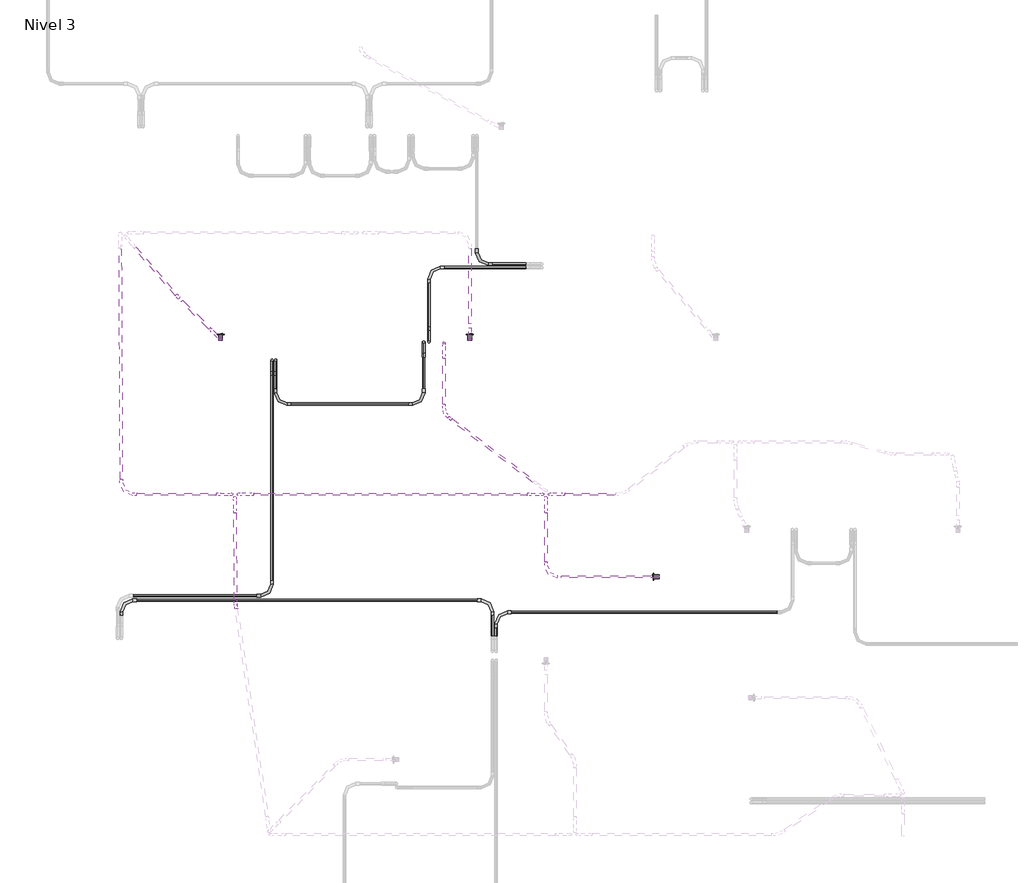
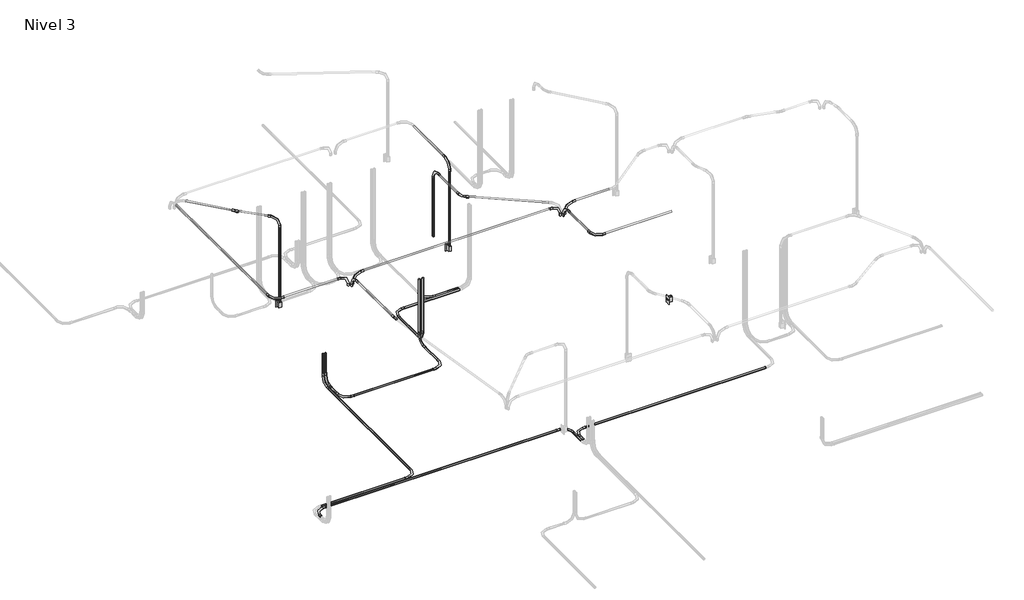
# One storey, part 3 of 9: 31 cable carrier segments, 26 cable carrier fittings, 3 switching devices.
"""IFC4 building model written with IfcOpenShell, lengths in millimetres."""

from ifc_helpers import new_model, si_unit, point, frame, frame_2d, origin, place, context, project, spatial, circle_curve, trimmed, segment, composite_curve, outline, extrude, transform, mapped, element, save
from components import m_codo_de_tubo_extremo_liso_pvc_9da73e12, m_codo_de_tubo_extremo_liso_pvc_102f0f41, m_codo_de_tubo_extremo_liso_pvc_01dea03c, m_codo_de_tubo_extremo_liso_pvc_a375e3ab, m_codo_de_tubo_extremo_liso_pvc_c9202d06, m_codo_de_tubo_extremo_liso_pvc_6ad27ddb, switching_device_22fed34b

model = new_model("IFC4")

# Units and contexts
model_context = context("Model", 3, world=origin())
ifc_project = project(units=[si_unit("LENGTHUNIT", "METRE", prefix="MILLI")], contexts=[model_context])

# Site, building, storey
site = spatial("IfcSite", under=ifc_project)
building = spatial("IfcBuilding", under=site)
storey = spatial("IfcBuildingStorey", under=building, Name="Nivel 3", Elevation=5450.0)

# Cable carrier fittings
placement = place(None, origin())
m_codo_de_tubo_extremo_liso_pvc_shape = m_codo_de_tubo_extremo_liso_pvc_9da73e12(model_context)
element("IfcCableCarrierFitting", 1, ObjectType="M_Codo de tubo - Extremo liso - PVC : CODO POTENCIA", at=placement, inside=storey, context=model_context, shape_type="MappedRepresentation", body=[
    mapped(m_codo_de_tubo_extremo_liso_pvc_shape, transform((3566.4756648, 7723.1932788, 5380.0), x_axis=(0.0, -1.0, 0.0), y_axis=(1.0, 0.0, 0.0), z_axis=(0.0, 0.0, 1.0))),
])
element("IfcCableCarrierFitting", 2, ObjectType="M_Codo de tubo - Extremo liso - PVC : CODO POTENCIA", at=placement, inside=storey, context=model_context, shape_type="MappedRepresentation", body=[
    mapped(m_codo_de_tubo_extremo_liso_pvc_shape, transform((3088.8006321, 7687.1296392, 5380.0), x_axis=(-1.0, 0.0, 0.0), y_axis=(0.0, -1.0, 0.0), z_axis=(0.0, 0.0, 1.0))),
])
element("IfcCableCarrierFitting", 3, ObjectType="M_Codo de tubo - Extremo liso - PVC : CODO POTENCIA", at=placement, inside=storey, context=model_context, shape_type="MappedRepresentation", body=[
    mapped(m_codo_de_tubo_extremo_liso_pvc_shape, transform((1557.2988878, 6764.6371118, 5380.0), x_axis=(0.0, 0.0, -1.0), y_axis=(0.0, -1.0, 0.0), z_axis=(-1.0, 0.0, 0.0))),
])
element("IfcCableCarrierFitting", 4, ObjectType="M_Codo de tubo - Extremo liso - PVC : CODO POTENCIA", at=placement, inside=storey, context=model_context, shape_type="MappedRepresentation", body=[
    mapped(m_codo_de_tubo_extremo_liso_pvc_shape, transform((1521.2352482, 6764.6371118, 5380.0), x_axis=(0.0, 0.0, -1.0), y_axis=(0.0, -1.0, 0.0), z_axis=(-1.0, 0.0, 0.0))),
])
element("IfcCableCarrierFitting", 5, ObjectType="M_Codo de tubo - Extremo liso - PVC : CODO POTENCIA", at=placement, inside=storey, context=model_context, shape_type="MappedRepresentation", body=[
    mapped(m_codo_de_tubo_extremo_liso_pvc_shape, transform((1521.2352482, 4410.0, 5380.0), x_axis=(1.0, 0.0, 0.0), y_axis=(0.0, 1.0, 0.0), z_axis=(0.0, 0.0, 1.0))),
])
element("IfcCableCarrierFitting", 6, ObjectType="M_Codo de tubo - Extremo liso - PVC : CODO POTENCIA", at=placement, inside=storey, context=model_context, shape_type="MappedRepresentation", body=[
    mapped(m_codo_de_tubo_extremo_liso_pvc_shape, transform((1557.2988878, 6324.6371118, 5380.0), x_axis=(0.0, -1.0, 0.0), y_axis=(1.0, 0.0, 0.0), z_axis=(0.0, 0.0, 1.0))),
])
element("IfcCableCarrierFitting", 7, ObjectType="M_Codo de tubo - Extremo liso - PVC : CODO POTENCIA", at=placement, inside=storey, context=model_context, shape_type="MappedRepresentation", body=[
    mapped(m_codo_de_tubo_extremo_liso_pvc_shape, transform((3037.2988878, 6324.6371118, 5380.0), x_axis=(1.0, 0.0, 0.0), y_axis=(0.0, 1.0, 0.0), z_axis=(0.0, 0.0, 1.0))),
])
element("IfcCableCarrierFitting", 8, ObjectType="M_Codo de tubo - Extremo liso - PVC : CODO POTENCIA", at=placement, inside=storey, context=model_context, shape_type="MappedRepresentation", body=[
    mapped(m_codo_de_tubo_extremo_liso_pvc_shape, transform((3723.3033726, 4365.3628882, 5380.0), x_axis=(0.0, 1.0, 0.0), y_axis=(-1.0, 0.0, 0.0), z_axis=(0.0, 0.0, 1.0))),
])
element("IfcCableCarrierFitting", 9, ObjectType="M_Codo de tubo - Extremo liso - PVC : CODO POTENCIA", at=placement, inside=storey, context=model_context, shape_type="MappedRepresentation", body=[
    mapped(m_codo_de_tubo_extremo_liso_pvc_shape, transform((17.0761068, 4365.3628882, 5380.0), x_axis=(-1.0, 0.0, 0.0), y_axis=(0.0, -1.0, 0.0), z_axis=(0.0, 0.0, 1.0))),
])
element("IfcCableCarrierFitting", 10, ObjectType="M_Codo de tubo - Extremo liso - PVC : CODO POTENCIA", at=placement, inside=storey, context=model_context, shape_type="MappedRepresentation", body=[
    mapped(m_codo_de_tubo_extremo_liso_pvc_shape, transform((3759.3670122, 4245.3628882, 5380.0), x_axis=(-1.0, 0.0, 0.0), y_axis=(0.0, -1.0, 0.0), z_axis=(0.0, 0.0, 1.0))),
])
element("IfcCableCarrierFitting", 11, ObjectType="M_Codo de tubo - Extremo liso - PVC : CODO POTENCIA", at=placement, inside=storey, context=model_context, shape_type="MappedRepresentation", body=[
    mapped(m_codo_de_tubo_extremo_liso_pvc_shape, transform((3088.8006321, 6944.6371118, 5380.0), x_axis=(0.0, -1.0, 0.0), y_axis=(0.0, 0.0, 1.0), z_axis=(-1.0, 0.0, 0.0))),
])
element("IfcCableCarrierFitting", 12, ObjectType="M_Codo de tubo - Extremo liso - PVC : CODO POTENCIA", at=placement, inside=storey, context=model_context, shape_type="MappedRepresentation", body=[
    mapped(m_codo_de_tubo_extremo_liso_pvc_shape, transform((3037.2988878, 6944.6371118, 5380.0), x_axis=(0.0, 1.0, 0.0), y_axis=(0.0, 0.0, 1.0), z_axis=(1.0, 0.0, 0.0))),
])
element("IfcCableCarrierFitting", 13, ObjectType="M_Codo de tubo - Extremo liso - PVC : CODO ILUMINACION", at=placement, inside=storey, context=model_context, shape_type="MappedRepresentation", body=[
    mapped(m_codo_de_tubo_extremo_liso_pvc_shape, transform((1185.6193562, 5423.1835713, 8000.0), x_axis=(-1.0, 0.0, 0.0), y_axis=(0.0, 0.0, -1.0), z_axis=(0.0, -1.0, 0.0))),
])
element("IfcCableCarrierFitting", 14, ObjectType="M_Codo de tubo - Extremo liso - PVC : CODO ILUMINACION", at=placement, inside=storey, context=model_context, shape_type="MappedRepresentation", body=[
    mapped(m_codo_de_tubo_extremo_liso_pvc_shape, transform((4293.3404165, 5423.1835713, 8000.0), x_axis=(-1.0, 0.0, 0.0), y_axis=(0.0, 0.0, -1.0), z_axis=(0.0, -1.0, 0.0))),
])
element("IfcCableCarrierFitting", 15, ObjectType="M_Codo de tubo - Extremo liso - PVC : CODO ILUMINACION", at=placement, inside=storey, context=model_context, shape_type="MappedRepresentation", body=[
    mapped(m_codo_de_tubo_extremo_liso_pvc_shape, transform((3497.5007971, 6971.8611243, 8000.0), x_axis=(0.0, 0.0, 1.0), y_axis=(0.0, 1.0, 0.0), z_axis=(-1.0, 0.0, 0.0))),
])
element("IfcCableCarrierFitting", 16, ObjectType="M_Codo de tubo - Extremo liso - PVC : CODO ILUMINACION", at=placement, inside=storey, context=model_context, shape_type="MappedRepresentation", body=[
    mapped(m_codo_de_tubo_extremo_liso_pvc_shape, transform((1007.1275387, 6971.8611243, 8000.0), x_axis=(0.0, 0.0, 1.0), y_axis=(-0.7107309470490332, 0.7034639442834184, 0.0), z_axis=(-0.7034639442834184, -0.7107309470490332, 0.0))),
])
element("IfcCableCarrierFitting", 17, ObjectType="M_Codo de tubo - Extremo liso - PVC : CODO ILUMINACION", at=placement, inside=storey, context=model_context, shape_type="MappedRepresentation", body=[
    mapped(m_codo_de_tubo_extremo_liso_pvc_shape, transform((4257.1192172, 5391.3745096, 8000.0), x_axis=(0.0, 1.0, 0.0), y_axis=(0.0, 0.0, -1.0), z_axis=(-1.0, 0.0, 0.0))),
])
element("IfcCableCarrierFitting", 18, ObjectType="M_Codo de tubo - Extremo liso - PVC : CODO ILUMINACION", at=placement, inside=storey, context=model_context, shape_type="MappedRepresentation", body=[
    mapped(m_codo_de_tubo_extremo_liso_pvc_shape, transform((4257.1192172, 4599.1450877, 8000.0), x_axis=(0.0, -1.0, 0.0), y_axis=(1.0, 0.0, 0.0), z_axis=(0.0, 0.0, 1.0))),
])
element("IfcCableCarrierFitting", 19, ObjectType="M_Codo de tubo - Extremo liso - PVC : CODO ILUMINACION", at=placement, inside=storey, context=model_context, shape_type="MappedRepresentation", body=[
    mapped(m_codo_de_tubo_extremo_liso_pvc_shape, transform((3238.5891384, 6934.3825168, 8000.0), x_axis=(0.0, 1.0, 0.0), y_axis=(0.0, 0.0, -1.0), z_axis=(-1.0, 0.0, 0.0))),
])
element("IfcCableCarrierFitting", 20, ObjectType="M_Codo de tubo - Extremo liso - PVC : CODO ILUMINACION", at=placement, inside=storey, context=model_context, shape_type="MappedRepresentation", body=[
    mapped(m_codo_de_tubo_extremo_liso_pvc_shape, transform((1149.6596259, 5391.3585606, 8000.0), x_axis=(-0.007684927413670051, 0.999970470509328, 0.0), y_axis=(0.0, 0.0, -1.0000000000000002), z_axis=(-0.999970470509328, -0.007684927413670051, 0.0))),
])
m_codo_de_tubo_extremo_liso_pvc_2_shape = m_codo_de_tubo_extremo_liso_pvc_102f0f41(model_context)
element("IfcCableCarrierFitting", 21, ObjectType="M_Codo de tubo - Extremo liso - PVC : CODO ILUMINACION", at=placement, inside=storey, context=model_context, shape_type="MappedRepresentation", body=[
    mapped(m_codo_de_tubo_extremo_liso_pvc_2_shape, transform((1117.5890953, 5423.1835713, 8000.0), x_axis=(1.0, 0.0, 0.0), y_axis=(0.0, 0.0, 1.0), z_axis=(0.0, -1.0, 0.0))),
])
element("IfcCableCarrierFitting", 22, ObjectType="M_Codo de tubo - Extremo liso - PVC : CODO ILUMINACION", at=placement, inside=storey, context=model_context, shape_type="MappedRepresentation", body=[
    mapped(m_codo_de_tubo_extremo_liso_pvc_2_shape, transform((4225.3101555, 5423.1835713, 8000.0), x_axis=(1.0, 0.0, 0.0), y_axis=(0.0, 0.0, 1.0), z_axis=(0.0, -1.0, 0.0))),
])
m_codo_de_tubo_extremo_liso_pvc_3_shape = m_codo_de_tubo_extremo_liso_pvc_01dea03c(model_context)
element("IfcCableCarrierFitting", 23, ObjectType="M_Codo de tubo - Extremo liso - PVC : CODO ILUMINACION", at=placement, inside=storey, context=model_context, shape_type="MappedRepresentation", body=[
    mapped(m_codo_de_tubo_extremo_liso_pvc_3_shape, transform((590.9641731, 7383.7693491, 8000.0), x_axis=(0.656059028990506, -0.7547095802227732, 0.0), y_axis=(0.7547095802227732, 0.656059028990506, 0.0), z_axis=(0.0, 0.0, 1.0))),
])
m_codo_de_tubo_extremo_liso_pvc_4_shape = m_codo_de_tubo_extremo_liso_pvc_a375e3ab(model_context)
element("IfcCableCarrierFitting", 24, ObjectType="M_Codo de tubo - Extremo liso - PVC : CODO ILUMINACION", at=placement, inside=storey, context=model_context, shape_type="MappedRepresentation", body=[
    mapped(m_codo_de_tubo_extremo_liso_pvc_4_shape, transform((16.4105658, 5423.1835713, 8000.0), x_axis=(0.004558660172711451, -0.9999896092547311, 0.0), y_axis=(0.9999896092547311, 0.004558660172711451, 0.0), z_axis=(0.0, 0.0, 1.0))),
])
m_codo_de_tubo_extremo_liso_pvc_5_shape = m_codo_de_tubo_extremo_liso_pvc_c9202d06(model_context)
element("IfcCableCarrierFitting", 25, ObjectType="M_Codo de tubo - Extremo liso - PVC : CODO ILUMINACION", at=placement, inside=storey, context=model_context, shape_type="MappedRepresentation", body=[
    mapped(m_codo_de_tubo_extremo_liso_pvc_5_shape, transform((3238.5891384, 6226.6682863, 8000.0), x_axis=(0.0, -1.0, 0.0), y_axis=(1.0, 0.0, 0.0), z_axis=(0.0, 0.0, 1.0))),
])
m_codo_de_tubo_extremo_liso_pvc_6_shape = m_codo_de_tubo_extremo_liso_pvc_6ad27ddb(model_context)
element("IfcCableCarrierFitting", 26, ObjectType="M_Codo de tubo - Extremo liso - PVC : CODO ILUMINACION", at=placement, inside=storey, context=model_context, shape_type="MappedRepresentation", body=[
    mapped(m_codo_de_tubo_extremo_liso_pvc_6_shape, transform((1157.8468904, 4326.0234866, 8000.0), x_axis=(0.007684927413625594, -0.9999704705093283, 0.0), y_axis=(0.9999704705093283, 0.007684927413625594, 0.0), z_axis=(0.0, 0.0, 1.0))),
])

# Cable carrier segments
element("IfcCableCarrierSegment", 27, ObjectType="PVC-SEL, POTENCIA", at=placement, inside=storey, context=model_context, shape_type="SweptSolid", body=[
    extrude(outline(composite_curve([segment(trimmed(circle_curve(frame_2d((7723.1932788, 5380.0)), 11.71), [point((7711.4832788, 5380.0))], [point((7723.1932788, 5391.71))], False, "CARTESIAN"), True, "CONTINUOUS"), segment(trimmed(circle_curve(frame_2d((7723.1932788, 5380.0)), 11.71), [point((7723.1932788, 5391.71))], [point((7734.9032788, 5380.0))], False, "CARTESIAN"), True, "CONTINUOUS"), segment(trimmed(circle_curve(frame_2d((7723.1932788, 5380.0)), 11.71), [point((7734.9032788, 5380.0))], [point((7723.1932788, 5368.29))], False, "CARTESIAN"), True, "CONTINUOUS"), segment(trimmed(circle_curve(frame_2d((7723.1932788, 5380.0)), 11.71), [point((7723.1932788, 5368.29))], [point((7711.4832788, 5380.0))], False, "CARTESIAN"), True, "CONTINUOUS")], self_intersect=False)), frame((3718.8756648, 0.0, 0.0), z_axis=(1.0, 0.0, 0.0), x_axis=(0.0, 1.0, 0.0)), (0.0, 0.0, 1.0), 343.361447),
])
element("IfcCableCarrierSegment", 28, ObjectType="PVC-SEL, POTENCIA", at=placement, inside=storey, context=model_context, shape_type="SweptSolid", body=[
    extrude(outline(composite_curve([segment(trimmed(circle_curve(frame_2d((7687.1296392, 5380.0)), 11.71), [point((7698.8396392, 5380.0))], [point((7687.1296392, 5368.29))], False, "CARTESIAN"), True, "CONTINUOUS"), segment(trimmed(circle_curve(frame_2d((7687.1296392, 5380.0)), 11.71), [point((7687.1296392, 5368.29))], [point((7675.4196392, 5380.0))], False, "CARTESIAN"), True, "CONTINUOUS"), segment(trimmed(circle_curve(frame_2d((7687.1296392, 5380.0)), 11.71), [point((7675.4196392, 5380.0))], [point((7687.1296392, 5391.71))], False, "CARTESIAN"), True, "CONTINUOUS"), segment(trimmed(circle_curve(frame_2d((7687.1296392, 5380.0)), 11.71), [point((7687.1296392, 5391.71))], [point((7698.8396392, 5380.0))], False, "CARTESIAN"), True, "CONTINUOUS")], self_intersect=False)), frame((3241.2006321, 0.0, 0.0), z_axis=(1.0, 0.0, 0.0), x_axis=(0.0, 1.0, 0.0)), (0.0, 0.0, 1.0), 821.0364797),
])
element("IfcCableCarrierSegment", 29, ObjectType="PVC-SEL, POTENCIA", at=placement, inside=storey, context=model_context, shape_type="SweptSolid", body=[
    extrude(outline(composite_curve([segment(trimmed(circle_curve(frame_2d((5380.0, 3088.8006321)), 11.71), [point((5380.0, 3077.0906321))], [point((5368.29, 3088.8006321))], False, "CARTESIAN"), True, "CONTINUOUS"), segment(trimmed(circle_curve(frame_2d((5380.0, 3088.8006321)), 11.71), [point((5368.29, 3088.8006321))], [point((5380.0, 3100.5106321))], False, "CARTESIAN"), True, "CONTINUOUS"), segment(trimmed(circle_curve(frame_2d((5380.0, 3088.8006321)), 11.71), [point((5380.0, 3100.5106321))], [point((5391.71, 3088.8006321))], False, "CARTESIAN"), True, "CONTINUOUS"), segment(trimmed(circle_curve(frame_2d((5380.0, 3088.8006321)), 11.71), [point((5391.71, 3088.8006321))], [point((5380.0, 3077.0906321))], False, "CARTESIAN"), True, "CONTINUOUS")], self_intersect=False)), frame((0.0, 7097.0371118, 0.0), z_axis=(0.0, 1.0, 0.0), x_axis=(0.0, 0.0, 1.0)), (0.0, 0.0, 1.0), 437.6925274),
])
element("IfcCableCarrierSegment", 30, ObjectType="PVC-SEL, POTENCIA", at=placement, inside=storey, context=model_context, shape_type="SweptSolid", body=[
    extrude(outline(composite_curve([segment(trimmed(circle_curve(frame_2d((5380.0, 1557.2988878)), 11.71), [point((5380.0, 1545.5888878))], [point((5368.29, 1557.2988878))], False, "CARTESIAN"), True, "CONTINUOUS"), segment(trimmed(circle_curve(frame_2d((5380.0, 1557.2988878)), 11.71), [point((5368.29, 1557.2988878))], [point((5380.0, 1569.0088878))], False, "CARTESIAN"), True, "CONTINUOUS"), segment(trimmed(circle_curve(frame_2d((5380.0, 1557.2988878)), 11.71), [point((5380.0, 1569.0088878))], [point((5391.71, 1557.2988878))], False, "CARTESIAN"), True, "CONTINUOUS"), segment(trimmed(circle_curve(frame_2d((5380.0, 1557.2988878)), 11.71), [point((5391.71, 1557.2988878))], [point((5380.0, 1545.5888878))], False, "CARTESIAN"), True, "CONTINUOUS")], self_intersect=False)), frame((0.0, 6477.0371118, 0.0), z_axis=(0.0, 1.0, 0.0), x_axis=(0.0, 0.0, 1.0)), (0.0, 0.0, 1.0), 135.2),
])
element("IfcCableCarrierSegment", 31, ObjectType="PVC-SEL, POTENCIA", at=placement, inside=storey, context=model_context, shape_type="SweptSolid", body=[
    extrude(outline(composite_curve([segment(trimmed(circle_curve(frame_2d((1557.2988878, 6764.6371118)), 11.71), [point((1569.0088878, 6764.6371118))], [point((1557.2988878, 6752.9271118))], False, "CARTESIAN"), True, "CONTINUOUS"), segment(trimmed(circle_curve(frame_2d((1557.2988878, 6764.6371118)), 11.71), [point((1557.2988878, 6752.9271118))], [point((1545.5888878, 6764.6371118))], False, "CARTESIAN"), True, "CONTINUOUS"), segment(trimmed(circle_curve(frame_2d((1557.2988878, 6764.6371118)), 11.71), [point((1545.5888878, 6764.6371118))], [point((1557.2988878, 6776.3471118))], False, "CARTESIAN"), True, "CONTINUOUS"), segment(trimmed(circle_curve(frame_2d((1557.2988878, 6764.6371118)), 11.71), [point((1557.2988878, 6776.3471118))], [point((1569.0088878, 6764.6371118))], False, "CARTESIAN"), True, "CONTINUOUS")], self_intersect=False)), frame((0.0, 0.0, 5532.4), z_axis=(0.0, 0.0, 1.0), x_axis=(1.0, 0.0, 0.0)), (0.0, 0.0, 1.0), 297.3020537),
])
element("IfcCableCarrierSegment", 32, ObjectType="PVC-SEL, POTENCIA", at=placement, inside=storey, context=model_context, shape_type="SweptSolid", body=[
    extrude(outline(composite_curve([segment(trimmed(circle_curve(frame_2d((5380.0, 1521.2352482)), 11.71), [point((5380.0, 1509.5252482))], [point((5368.29, 1521.2352482))], False, "CARTESIAN"), True, "CONTINUOUS"), segment(trimmed(circle_curve(frame_2d((5380.0, 1521.2352482)), 11.71), [point((5368.29, 1521.2352482))], [point((5380.0, 1532.9452482))], False, "CARTESIAN"), True, "CONTINUOUS"), segment(trimmed(circle_curve(frame_2d((5380.0, 1521.2352482)), 11.71), [point((5380.0, 1532.9452482))], [point((5391.71, 1521.2352482))], False, "CARTESIAN"), True, "CONTINUOUS"), segment(trimmed(circle_curve(frame_2d((5380.0, 1521.2352482)), 11.71), [point((5391.71, 1521.2352482))], [point((5380.0, 1509.5252482))], False, "CARTESIAN"), True, "CONTINUOUS")], self_intersect=False)), frame((0.0, 4562.4, 0.0), z_axis=(0.0, 1.0, 0.0), x_axis=(0.0, 0.0, 1.0)), (0.0, 0.0, 1.0), 2049.8371118),
])
element("IfcCableCarrierSegment", 33, ObjectType="PVC-SEL, POTENCIA", at=placement, inside=storey, context=model_context, shape_type="SweptSolid", body=[
    extrude(outline(composite_curve([segment(trimmed(circle_curve(frame_2d((1521.2352482, 6764.6371118)), 11.71), [point((1532.9452482, 6764.6371118))], [point((1521.2352482, 6752.9271118))], False, "CARTESIAN"), True, "CONTINUOUS"), segment(trimmed(circle_curve(frame_2d((1521.2352482, 6764.6371118)), 11.71), [point((1521.2352482, 6752.9271118))], [point((1509.5252482, 6764.6371118))], False, "CARTESIAN"), True, "CONTINUOUS"), segment(trimmed(circle_curve(frame_2d((1521.2352482, 6764.6371118)), 11.71), [point((1509.5252482, 6764.6371118))], [point((1521.2352482, 6776.3471118))], False, "CARTESIAN"), True, "CONTINUOUS"), segment(trimmed(circle_curve(frame_2d((1521.2352482, 6764.6371118)), 11.71), [point((1521.2352482, 6776.3471118))], [point((1532.9452482, 6764.6371118))], False, "CARTESIAN"), True, "CONTINUOUS")], self_intersect=False)), frame((0.0, 0.0, 5532.4), z_axis=(0.0, 0.0, 1.0), x_axis=(1.0, 0.0, 0.0)), (0.0, 0.0, 1.0), 297.3020537),
])
element("IfcCableCarrierSegment", 34, ObjectType="PVC-SEL, POTENCIA", at=placement, inside=storey, context=model_context, shape_type="SweptSolid", body=[
    extrude(outline(composite_curve([segment(trimmed(circle_curve(frame_2d((5380.0, 3759.3670122)), 11.71), [point((5380.0, 3771.0770122))], [point((5391.71, 3759.3670122))], False, "CARTESIAN"), True, "CONTINUOUS"), segment(trimmed(circle_curve(frame_2d((5380.0, 3759.3670122)), 11.71), [point((5391.71, 3759.3670122))], [point((5380.0, 3747.6570122))], False, "CARTESIAN"), True, "CONTINUOUS"), segment(trimmed(circle_curve(frame_2d((5380.0, 3759.3670122)), 11.71), [point((5380.0, 3747.6570122))], [point((5368.29, 3759.3670122))], False, "CARTESIAN"), True, "CONTINUOUS"), segment(trimmed(circle_curve(frame_2d((5380.0, 3759.3670122)), 11.71), [point((5368.29, 3759.3670122))], [point((5380.0, 3771.0770122))], False, "CARTESIAN"), True, "CONTINUOUS")], self_intersect=False)), frame((0.0, 4007.7628882, 0.0), z_axis=(0.0, 1.0, 0.0), x_axis=(0.0, 0.0, 1.0)), (0.0, 0.0, 1.0), 85.2),
])
element("IfcCableCarrierSegment", 35, ObjectType="PVC-SEL, POTENCIA", at=placement, inside=storey, context=model_context, shape_type="SweptSolid", body=[
    extrude(outline(composite_curve([segment(trimmed(circle_curve(frame_2d((5380.0, 3723.3033726)), 11.71), [point((5380.0, 3735.0133726))], [point((5391.71, 3723.3033726))], False, "CARTESIAN"), True, "CONTINUOUS"), segment(trimmed(circle_curve(frame_2d((5380.0, 3723.3033726)), 11.71), [point((5391.71, 3723.3033726))], [point((5380.0, 3711.5933726))], False, "CARTESIAN"), True, "CONTINUOUS"), segment(trimmed(circle_curve(frame_2d((5380.0, 3723.3033726)), 11.71), [point((5380.0, 3711.5933726))], [point((5368.29, 3723.3033726))], False, "CARTESIAN"), True, "CONTINUOUS"), segment(trimmed(circle_curve(frame_2d((5380.0, 3723.3033726)), 11.71), [point((5368.29, 3723.3033726))], [point((5380.0, 3735.0133726))], False, "CARTESIAN"), True, "CONTINUOUS")], self_intersect=False)), frame((0.0, 4007.7628882, 0.0), z_axis=(0.0, 1.0, 0.0), x_axis=(0.0, 0.0, 1.0)), (0.0, 0.0, 1.0), 205.2),
])
element("IfcCableCarrierSegment", 36, ObjectType="PVC-SEL, POTENCIA", at=placement, inside=storey, context=model_context, shape_type="SweptSolid", body=[
    extrude(outline(composite_curve([segment(trimmed(circle_curve(frame_2d((4410.0, 5380.0)), 11.71), [point((4421.71, 5380.0))], [point((4410.0, 5368.29))], False, "CARTESIAN"), True, "CONTINUOUS"), segment(trimmed(circle_curve(frame_2d((4410.0, 5380.0)), 11.71), [point((4410.0, 5368.29))], [point((4398.29, 5380.0))], False, "CARTESIAN"), True, "CONTINUOUS"), segment(trimmed(circle_curve(frame_2d((4410.0, 5380.0)), 11.71), [point((4398.29, 5380.0))], [point((4410.0, 5391.71))], False, "CARTESIAN"), True, "CONTINUOUS"), segment(trimmed(circle_curve(frame_2d((4410.0, 5380.0)), 11.71), [point((4410.0, 5391.71))], [point((4421.71, 5380.0))], False, "CARTESIAN"), True, "CONTINUOUS")], self_intersect=False)), frame((133.4124672, 0.0, 0.0), z_axis=(1.0, 0.0, 0.0), x_axis=(0.0, 1.0, 0.0)), (0.0, 0.0, 1.0), 1235.422781),
])
element("IfcCableCarrierSegment", 37, ObjectType="PVC-SEL, POTENCIA", at=placement, inside=storey, context=model_context, shape_type="SweptSolid", body=[
    extrude(outline(composite_curve([segment(trimmed(circle_curve(frame_2d((6324.6371118, 5380.0)), 11.71), [point((6312.9271118, 5380.0))], [point((6324.6371118, 5391.71))], False, "CARTESIAN"), True, "CONTINUOUS"), segment(trimmed(circle_curve(frame_2d((6324.6371118, 5380.0)), 11.71), [point((6324.6371118, 5391.71))], [point((6336.3471118, 5380.0))], False, "CARTESIAN"), True, "CONTINUOUS"), segment(trimmed(circle_curve(frame_2d((6324.6371118, 5380.0)), 11.71), [point((6336.3471118, 5380.0))], [point((6324.6371118, 5368.29))], False, "CARTESIAN"), True, "CONTINUOUS"), segment(trimmed(circle_curve(frame_2d((6324.6371118, 5380.0)), 11.71), [point((6324.6371118, 5368.29))], [point((6312.9271118, 5380.0))], False, "CARTESIAN"), True, "CONTINUOUS")], self_intersect=False)), frame((1709.6988878, 0.0, 0.0), z_axis=(1.0, 0.0, 0.0), x_axis=(0.0, 1.0, 0.0)), (0.0, 0.0, 1.0), 1175.2),
])
element("IfcCableCarrierSegment", 38, ObjectType="PVC-SEL, POTENCIA", at=placement, inside=storey, context=model_context, shape_type="SweptSolid", body=[
    extrude(outline(composite_curve([segment(trimmed(circle_curve(frame_2d((5380.0, 3037.2988878)), 11.71), [point((5380.0, 3049.0088878))], [point((5391.71, 3037.2988878))], False, "CARTESIAN"), True, "CONTINUOUS"), segment(trimmed(circle_curve(frame_2d((5380.0, 3037.2988878)), 11.71), [point((5391.71, 3037.2988878))], [point((5380.0, 3025.5888878))], False, "CARTESIAN"), True, "CONTINUOUS"), segment(trimmed(circle_curve(frame_2d((5380.0, 3037.2988878)), 11.71), [point((5380.0, 3025.5888878))], [point((5368.29, 3037.2988878))], False, "CARTESIAN"), True, "CONTINUOUS"), segment(trimmed(circle_curve(frame_2d((5380.0, 3037.2988878)), 11.71), [point((5368.29, 3037.2988878))], [point((5380.0, 3049.0088878))], False, "CARTESIAN"), True, "CONTINUOUS")], self_intersect=False)), frame((0.0, 6477.0371118, 0.0), z_axis=(0.0, 1.0, 0.0), x_axis=(0.0, 0.0, 1.0)), (0.0, 0.0, 1.0), 315.2),
])
element("IfcCableCarrierSegment", 39, ObjectType="PVC-SEL, POTENCIA", at=placement, inside=storey, context=model_context, shape_type="SweptSolid", body=[
    extrude(outline(composite_curve([segment(trimmed(circle_curve(frame_2d((4365.3628882, 5380.0)), 11.71), [point((4377.0728882, 5380.0))], [point((4365.3628882, 5368.29))], False, "CARTESIAN"), True, "CONTINUOUS"), segment(trimmed(circle_curve(frame_2d((4365.3628882, 5380.0)), 11.71), [point((4365.3628882, 5368.29))], [point((4353.6528882, 5380.0))], False, "CARTESIAN"), True, "CONTINUOUS"), segment(trimmed(circle_curve(frame_2d((4365.3628882, 5380.0)), 11.71), [point((4353.6528882, 5380.0))], [point((4365.3628882, 5391.71))], False, "CARTESIAN"), True, "CONTINUOUS"), segment(trimmed(circle_curve(frame_2d((4365.3628882, 5380.0)), 11.71), [point((4365.3628882, 5391.71))], [point((4377.0728882, 5380.0))], False, "CARTESIAN"), True, "CONTINUOUS")], self_intersect=False)), frame((169.4761068, 0.0, 0.0), z_axis=(1.0, 0.0, 0.0), x_axis=(0.0, 1.0, 0.0)), (0.0, 0.0, 1.0), 3401.4272658),
])
element("IfcCableCarrierSegment", 40, ObjectType="PVC-SEL, POTENCIA", at=placement, inside=storey, context=model_context, shape_type="SweptSolid", body=[
    extrude(outline(composite_curve([segment(trimmed(circle_curve(frame_2d((4245.3628882, 5380.0)), 11.71), [point((4257.0728882, 5380.0))], [point((4245.3628882, 5368.29))], False, "CARTESIAN"), True, "CONTINUOUS"), segment(trimmed(circle_curve(frame_2d((4245.3628882, 5380.0)), 11.71), [point((4245.3628882, 5368.29))], [point((4233.6528882, 5380.0))], False, "CARTESIAN"), True, "CONTINUOUS"), segment(trimmed(circle_curve(frame_2d((4245.3628882, 5380.0)), 11.71), [point((4233.6528882, 5380.0))], [point((4245.3628882, 5391.71))], False, "CARTESIAN"), True, "CONTINUOUS"), segment(trimmed(circle_curve(frame_2d((4245.3628882, 5380.0)), 11.71), [point((4245.3628882, 5391.71))], [point((4257.0728882, 5380.0))], False, "CARTESIAN"), True, "CONTINUOUS")], self_intersect=False)), frame((3911.7670122, 0.0, 0.0), z_axis=(1.0, 0.0, 0.0), x_axis=(0.0, 1.0, 0.0)), (0.0, 0.0, 1.0), 2655.2595015),
])
element("IfcCableCarrierSegment", 41, ObjectType="PVC-SEL, POTENCIA", at=placement, inside=storey, context=model_context, shape_type="SweptSolid", body=[
    extrude(outline(composite_curve([segment(trimmed(circle_curve(frame_2d((3088.8006321, 6944.6371118)), 11.71), [point((3077.0906321, 6944.6371118))], [point((3088.8006321, 6956.3471118))], False, "CARTESIAN"), True, "CONTINUOUS"), segment(trimmed(circle_curve(frame_2d((3088.8006321, 6944.6371118)), 11.71), [point((3088.8006321, 6956.3471118))], [point((3100.5106321, 6944.6371118))], False, "CARTESIAN"), True, "CONTINUOUS"), segment(trimmed(circle_curve(frame_2d((3088.8006321, 6944.6371118)), 11.71), [point((3100.5106321, 6944.6371118))], [point((3088.8006321, 6932.9271118))], False, "CARTESIAN"), True, "CONTINUOUS"), segment(trimmed(circle_curve(frame_2d((3088.8006321, 6944.6371118)), 11.71), [point((3088.8006321, 6932.9271118))], [point((3077.0906321, 6944.6371118))], False, "CARTESIAN"), True, "CONTINUOUS")], self_intersect=False)), frame((0.0, 0.0, 5532.4), z_axis=(0.0, 0.0, 1.0), x_axis=(1.0, 0.0, 0.0)), (0.0, 0.0, 1.0), 817.6),
])
element("IfcCableCarrierSegment", 42, ObjectType="PVC-SEL, POTENCIA", at=placement, inside=storey, context=model_context, shape_type="SweptSolid", body=[
    extrude(outline(composite_curve([segment(trimmed(circle_curve(frame_2d((3037.2988878, 6944.6371118)), 11.71), [point((3025.5888878, 6944.6371118))], [point((3037.2988878, 6956.3471118))], False, "CARTESIAN"), True, "CONTINUOUS"), segment(trimmed(circle_curve(frame_2d((3037.2988878, 6944.6371118)), 11.71), [point((3037.2988878, 6956.3471118))], [point((3049.0088878, 6944.6371118))], False, "CARTESIAN"), True, "CONTINUOUS"), segment(trimmed(circle_curve(frame_2d((3037.2988878, 6944.6371118)), 11.71), [point((3049.0088878, 6944.6371118))], [point((3037.2988878, 6932.9271118))], False, "CARTESIAN"), True, "CONTINUOUS"), segment(trimmed(circle_curve(frame_2d((3037.2988878, 6944.6371118)), 11.71), [point((3037.2988878, 6932.9271118))], [point((3025.5888878, 6944.6371118))], False, "CARTESIAN"), True, "CONTINUOUS")], self_intersect=False)), frame((0.0, 0.0, 5532.4), z_axis=(0.0, 0.0, 1.0), x_axis=(1.0, 0.0, 0.0)), (0.0, 0.0, 1.0), 817.6),
])
element("IfcCableCarrierSegment", 43, ObjectType="PVC-SEL ILUMINACION", at=placement, inside=storey, context=model_context, shape_type="SweptSolid", body=[
    extrude(outline(composite_curve([segment(trimmed(circle_curve(frame_2d((5423.1835713, 8000.0)), 11.71), [point((5434.8935713, 8000.0))], [point((5423.1835713, 7988.29))], False, "CARTESIAN"), True, "CONTINUOUS"), segment(trimmed(circle_curve(frame_2d((5423.1835713, 8000.0)), 11.71), [point((5423.1835713, 7988.29))], [point((5411.4735713, 8000.0))], False, "CARTESIAN"), True, "CONTINUOUS"), segment(trimmed(circle_curve(frame_2d((5423.1835713, 8000.0)), 11.71), [point((5411.4735713, 8000.0))], [point((5423.1835713, 8011.71))], False, "CARTESIAN"), True, "CONTINUOUS"), segment(trimmed(circle_curve(frame_2d((5423.1835713, 8000.0)), 11.71), [point((5423.1835713, 8011.71))], [point((5434.8935713, 8000.0))], False, "CARTESIAN"), True, "CONTINUOUS")], self_intersect=False)), frame((1338.0193562, 0.0, 0.0), z_axis=(1.0, 0.0, 0.0), x_axis=(0.0, 1.0, 0.0)), (0.0, 0.0, 1.0), 2734.8907993),
])
element("IfcCableCarrierSegment", 44, ObjectType="PVC-SEL ILUMINACION", at=placement, inside=storey, context=model_context, shape_type="SweptSolid", body=[
    extrude(outline(composite_curve([segment(trimmed(circle_curve(frame_2d((8000.0, 3497.5007971)), 11.71), [point((8000.0, 3485.7907971))], [point((7988.29, 3497.5007971))], False, "CARTESIAN"), True, "CONTINUOUS"), segment(trimmed(circle_curve(frame_2d((8000.0, 3497.5007971)), 11.71), [point((7988.29, 3497.5007971))], [point((8000.0, 3509.2107971))], False, "CARTESIAN"), True, "CONTINUOUS"), segment(trimmed(circle_curve(frame_2d((8000.0, 3497.5007971)), 11.71), [point((8000.0, 3509.2107971))], [point((8011.71, 3497.5007971))], False, "CARTESIAN"), True, "CONTINUOUS"), segment(trimmed(circle_curve(frame_2d((8000.0, 3497.5007971)), 11.71), [point((8011.71, 3497.5007971))], [point((8000.0, 3485.7907971))], False, "CARTESIAN"), True, "CONTINUOUS")], self_intersect=False)), frame((0.0, 7124.2611243, 0.0), z_axis=(0.0, 1.0, 0.0), x_axis=(0.0, 0.0, 1.0)), (0.0, 0.0, 1.0), 757.9290445),
])
element("IfcCableCarrierSegment", 45, ObjectType="PVC-SEL ILUMINACION", at=placement, inside=storey, context=model_context, shape_type="SweptSolid", body=[
    extrude(outline(composite_curve([segment(trimmed(circle_curve(frame_2d((3497.5007971, 6971.8611243)), 11.71), [point((3485.7907971, 6971.8611243))], [point((3497.5007971, 6983.5711243))], False, "CARTESIAN"), True, "CONTINUOUS"), segment(trimmed(circle_curve(frame_2d((3497.5007971, 6971.8611243)), 11.71), [point((3497.5007971, 6983.5711243))], [point((3509.2107971, 6971.8611243))], False, "CARTESIAN"), True, "CONTINUOUS"), segment(trimmed(circle_curve(frame_2d((3497.5007971, 6971.8611243)), 11.71), [point((3509.2107971, 6971.8611243))], [point((3497.5007971, 6960.1511243))], False, "CARTESIAN"), True, "CONTINUOUS"), segment(trimmed(circle_curve(frame_2d((3497.5007971, 6971.8611243)), 11.71), [point((3497.5007971, 6960.1511243))], [point((3485.7907971, 6971.8611243))], False, "CARTESIAN"), True, "CONTINUOUS")], self_intersect=False)), frame((0.0, 0.0, 6690.2227463), z_axis=(0.0, 0.0, 1.0), x_axis=(1.0, 0.0, 0.0)), (0.0, 0.0, 1.0), 1157.3772537),
])
element("IfcCableCarrierSegment", 46, ObjectType="PVC-SEL ILUMINACION", at=placement, inside=storey, context=model_context, shape_type="SweptSolid", body=[
    extrude(outline(composite_curve([segment(trimmed(circle_curve(frame_2d((0.0, -11.71)), 11.71), [point((-11.71, -11.71))], [point((0.0, 0.0))], False, "CARTESIAN"), True, "CONTINUOUS"), segment(trimmed(circle_curve(frame_2d((0.0, -11.71)), 11.71), [point((0.0, 0.0))], [point((11.7099999, -11.71))], False, "CARTESIAN"), True, "CONTINUOUS"), segment(trimmed(circle_curve(frame_2d((0.0, -11.71)), 11.71), [point((11.7099999, -11.71))], [point((0.0, -23.42))], False, "CARTESIAN"), True, "CONTINUOUS"), segment(trimmed(circle_curve(frame_2d((0.0, -11.71)), 11.71), [point((0.0, -23.42))], [point((-11.71, -11.71))], False, "CARTESIAN"), True, "CONTINUOUS")], self_intersect=False)), frame((563.1567842, 7415.7580908, 7988.29), z_axis=(-0.6560590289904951, 0.7547095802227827, 0.0), x_axis=(0.7547095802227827, 0.6560590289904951, 0.0)), (0.0, 0.0, 1.0), 624.949927),
])
element("IfcCableCarrierSegment", 47, ObjectType="PVC-SEL ILUMINACION", at=placement, inside=storey, context=model_context, shape_type="SweptSolid", body=[
    extrude(outline(composite_curve([segment(trimmed(circle_curve(frame_2d((0.0, -11.71)), 11.71), [point((-11.71, -11.71))], [point((0.0, 0.0))], False, "CARTESIAN"), True, "CONTINUOUS"), segment(trimmed(circle_curve(frame_2d((0.0, -11.71)), 11.71), [point((0.0, 0.0))], [point((11.7099999, -11.71))], False, "CARTESIAN"), True, "CONTINUOUS"), segment(trimmed(circle_curve(frame_2d((0.0, -11.71)), 11.71), [point((11.7099999, -11.71))], [point((0.0, -23.42))], False, "CARTESIAN"), True, "CONTINUOUS"), segment(trimmed(circle_curve(frame_2d((0.0, -11.71)), 11.71), [point((0.0, -23.42))], [point((-11.71, -11.71))], False, "CARTESIAN"), True, "CONTINUOUS")], self_intersect=False)), frame((898.8121424, 7079.0690295, 7988.29), z_axis=(-0.7107309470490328, 0.7034639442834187, 0.0), x_axis=(0.7034639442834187, 0.7107309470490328, 0.0)), (0.0, 0.0, 1.0), 390.7572692),
])
element("IfcCableCarrierSegment", 48, ObjectType="PVC-SEL ILUMINACION", at=placement, inside=storey, context=model_context, shape_type="SweptSolid", body=[
    extrude(outline(composite_curve([segment(trimmed(circle_curve(frame_2d((1007.1275387, 6971.8611243)), 11.71), [point((995.4175387, 6971.8611243))], [point((1007.1275387, 6983.5711243))], False, "CARTESIAN"), True, "CONTINUOUS"), segment(trimmed(circle_curve(frame_2d((1007.1275387, 6971.8611243)), 11.71), [point((1007.1275387, 6983.5711243))], [point((1018.8375387, 6971.8611243))], False, "CARTESIAN"), True, "CONTINUOUS"), segment(trimmed(circle_curve(frame_2d((1007.1275387, 6971.8611243)), 11.71), [point((1018.8375387, 6971.8611243))], [point((1007.1275387, 6960.1511243))], False, "CARTESIAN"), True, "CONTINUOUS"), segment(trimmed(circle_curve(frame_2d((1007.1275387, 6971.8611243)), 11.71), [point((1007.1275387, 6960.1511243))], [point((995.4175387, 6971.8611243))], False, "CARTESIAN"), True, "CONTINUOUS")], self_intersect=False)), frame((0.0, 0.0, 6690.2227463), z_axis=(0.0, 0.0, 1.0), x_axis=(1.0, 0.0, 0.0)), (0.0, 0.0, 1.0), 1157.3772537),
])
element("IfcCableCarrierSegment", 49, ObjectType="PVC-SEL ILUMINACION", at=placement, inside=storey, context=model_context, shape_type="SweptSolid", body=[
    extrude(outline(composite_curve([segment(trimmed(circle_curve(frame_2d((0.0, 11.71)), 11.71), [point((11.71, 11.71))], [point((0.0, 0.0))], False, "CARTESIAN"), True, "CONTINUOUS"), segment(trimmed(circle_curve(frame_2d((0.0, 11.71)), 11.71), [point((0.0, 0.0))], [point((-11.71, 11.71))], False, "CARTESIAN"), True, "CONTINUOUS"), segment(trimmed(circle_curve(frame_2d((0.0, 11.71)), 11.71), [point((-11.71, 11.71))], [point((0.0, 23.42))], False, "CARTESIAN"), True, "CONTINUOUS"), segment(trimmed(circle_curve(frame_2d((0.0, 11.71)), 11.71), [point((0.0, 23.42))], [point((11.71, 11.71))], False, "CARTESIAN"), True, "CONTINUOUS")], self_intersect=False)), frame((15.7181959, 5575.0621205, 8011.71), z_axis=(-0.004558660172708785, 0.9999896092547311, 0.0), x_axis=(0.9999896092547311, 0.004558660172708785, 0.0)), (0.0, 0.0, 1.0), 2302.0964035),
])
element("IfcCableCarrierSegment", 50, ObjectType="PVC-SEL ILUMINACION", at=placement, inside=storey, context=model_context, shape_type="SweptSolid", body=[
    extrude(outline(composite_curve([segment(trimmed(circle_curve(frame_2d((5423.1835713, 8000.0)), 11.71), [point((5434.8935713, 8000.0))], [point((5423.1835713, 7988.29))], False, "CARTESIAN"), True, "CONTINUOUS"), segment(trimmed(circle_curve(frame_2d((5423.1835713, 8000.0)), 11.71), [point((5423.1835713, 7988.29))], [point((5411.4735713, 8000.0))], False, "CARTESIAN"), True, "CONTINUOUS"), segment(trimmed(circle_curve(frame_2d((5423.1835713, 8000.0)), 11.71), [point((5411.4735713, 8000.0))], [point((5423.1835713, 8011.71))], False, "CARTESIAN"), True, "CONTINUOUS"), segment(trimmed(circle_curve(frame_2d((5423.1835713, 8000.0)), 11.71), [point((5423.1835713, 8011.71))], [point((5434.8935713, 8000.0))], False, "CARTESIAN"), True, "CONTINUOUS")], self_intersect=False)), frame((168.2906932, 0.0, 0.0), z_axis=(1.0, 0.0, 0.0), x_axis=(0.0, 1.0, 0.0)), (0.0, 0.0, 1.0), 796.8984021),
])
element("IfcCableCarrierSegment", 51, ObjectType="PVC-SEL ILUMINACION", at=placement, inside=storey, context=model_context, shape_type="SweptSolid", body=[
    extrude(outline(composite_curve([segment(trimmed(circle_curve(frame_2d((5423.1835713, 8000.0)), 11.71), [point((5411.4735713, 8000.0))], [point((5423.1835713, 8011.71))], False, "CARTESIAN"), True, "CONTINUOUS"), segment(trimmed(circle_curve(frame_2d((5423.1835713, 8000.0)), 11.71), [point((5423.1835713, 8011.71))], [point((5434.8935713, 8000.0))], False, "CARTESIAN"), True, "CONTINUOUS"), segment(trimmed(circle_curve(frame_2d((5423.1835713, 8000.0)), 11.71), [point((5434.8935713, 8000.0))], [point((5423.1835713, 7988.29))], False, "CARTESIAN"), True, "CONTINUOUS"), segment(trimmed(circle_curve(frame_2d((5423.1835713, 8000.0)), 11.71), [point((5423.1835713, 7988.29))], [point((5411.4735713, 8000.0))], False, "CARTESIAN"), True, "CONTINUOUS")], self_intersect=False)), frame((4445.7404165, 0.0, 0.0), z_axis=(1.0, 0.0, 0.0), x_axis=(0.0, 1.0, 0.0)), (0.0, 0.0, 1.0), 502.5433538),
])
element("IfcCableCarrierSegment", 52, ObjectType="PVC-SEL ILUMINACION", at=placement, inside=storey, context=model_context, shape_type="SweptSolid", body=[
    extrude(outline(composite_curve([segment(trimmed(circle_curve(frame_2d((8000.0, 4257.1192172)), 11.71), [point((8000.0, 4245.4092172))], [point((7988.29, 4257.1192172))], False, "CARTESIAN"), True, "CONTINUOUS"), segment(trimmed(circle_curve(frame_2d((8000.0, 4257.1192172)), 11.71), [point((7988.29, 4257.1192172))], [point((8000.0, 4268.8292172))], False, "CARTESIAN"), True, "CONTINUOUS"), segment(trimmed(circle_curve(frame_2d((8000.0, 4257.1192172)), 11.71), [point((8000.0, 4268.8292172))], [point((8011.71, 4257.1192172))], False, "CARTESIAN"), True, "CONTINUOUS"), segment(trimmed(circle_curve(frame_2d((8000.0, 4257.1192172)), 11.71), [point((8011.71, 4257.1192172))], [point((8000.0, 4245.4092172))], False, "CARTESIAN"), True, "CONTINUOUS")], self_intersect=False)), frame((0.0, 4751.5450877, 0.0), z_axis=(0.0, 1.0, 0.0), x_axis=(0.0, 0.0, 1.0)), (0.0, 0.0, 1.0), 487.4294219),
])
element("IfcCableCarrierSegment", 53, ObjectType="PVC-SEL ILUMINACION", at=placement, inside=storey, context=model_context, shape_type="SweptSolid", body=[
    extrude(outline(composite_curve([segment(trimmed(circle_curve(frame_2d((4599.1450877, 8000.0)), 11.71), [point((4587.4350877, 8000.0))], [point((4599.1450877, 8011.71))], False, "CARTESIAN"), True, "CONTINUOUS"), segment(trimmed(circle_curve(frame_2d((4599.1450877, 8000.0)), 11.71), [point((4599.1450877, 8011.71))], [point((4610.8550877, 8000.0))], False, "CARTESIAN"), True, "CONTINUOUS"), segment(trimmed(circle_curve(frame_2d((4599.1450877, 8000.0)), 11.71), [point((4610.8550877, 8000.0))], [point((4599.1450877, 7988.29))], False, "CARTESIAN"), True, "CONTINUOUS"), segment(trimmed(circle_curve(frame_2d((4599.1450877, 8000.0)), 11.71), [point((4599.1450877, 7988.29))], [point((4587.4350877, 8000.0))], False, "CARTESIAN"), True, "CONTINUOUS")], self_intersect=False)), frame((4409.5192172, 0.0, 0.0), z_axis=(1.0, 0.0, 0.0), x_axis=(0.0, 1.0, 0.0)), (0.0, 0.0, 1.0), 977.3844609),
])
element("IfcCableCarrierSegment", 54, ObjectType="PVC-SEL ILUMINACION", at=placement, inside=storey, context=model_context, shape_type="SweptSolid", body=[
    extrude(outline(composite_curve([segment(trimmed(circle_curve(frame_2d((0.0, -11.71)), 11.71), [point((-11.71, -11.71))], [point((0.0, 0.0))], False, "CARTESIAN"), True, "CONTINUOUS"), segment(trimmed(circle_curve(frame_2d((0.0, -11.71)), 11.71), [point((0.0, 0.0))], [point((11.71, -11.71))], False, "CARTESIAN"), True, "CONTINUOUS"), segment(trimmed(circle_curve(frame_2d((0.0, -11.71)), 11.71), [point((11.71, -11.71))], [point((0.0, -23.42))], False, "CARTESIAN"), True, "CONTINUOUS"), segment(trimmed(circle_curve(frame_2d((0.0, -11.71)), 11.71), [point((0.0, -23.42))], [point((-11.71, -11.71))], False, "CARTESIAN"), True, "CONTINUOUS")], self_intersect=False)), frame((4136.5290481, 5550.0220306, 7988.29), z_axis=(-0.7986355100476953, 0.6018150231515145, 0.0), x_axis=(0.6018150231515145, 0.7986355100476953, 0.0)), (0.0, 0.0, 1.0), 1029.254702),
])
element("IfcCableCarrierSegment", 55, ObjectType="PVC-SEL ILUMINACION", at=placement, inside=storey, context=model_context, shape_type="SweptSolid", body=[
    extrude(outline(composite_curve([segment(trimmed(circle_curve(frame_2d((8000.0, 3238.5891384)), 11.71), [point((8000.0, 3250.2991384))], [point((8011.71, 3238.5891384))], False, "CARTESIAN"), True, "CONTINUOUS"), segment(trimmed(circle_curve(frame_2d((8000.0, 3238.5891384)), 11.71), [point((8011.71, 3238.5891384))], [point((8000.0, 3226.8791384))], False, "CARTESIAN"), True, "CONTINUOUS"), segment(trimmed(circle_curve(frame_2d((8000.0, 3238.5891384)), 11.71), [point((8000.0, 3226.8791384))], [point((7988.29, 3238.5891384))], False, "CARTESIAN"), True, "CONTINUOUS"), segment(trimmed(circle_curve(frame_2d((8000.0, 3238.5891384)), 11.71), [point((7988.29, 3238.5891384))], [point((8000.0, 3250.2991384))], False, "CARTESIAN"), True, "CONTINUOUS")], self_intersect=False)), frame((0.0, 6321.7561641, 0.0), z_axis=(0.0, 1.0, 0.0), x_axis=(0.0, 0.0, 1.0)), (0.0, 0.0, 1.0), 460.2263527),
])
element("IfcCableCarrierSegment", 56, ObjectType="PVC-SEL ILUMINACION", at=placement, inside=storey, context=model_context, shape_type="SweptSolid", body=[
    extrude(outline(composite_curve([segment(trimmed(circle_curve(frame_2d((3238.5891384, 6934.3825168)), 11.71), [point((3226.8791384, 6934.3825168))], [point((3238.5891384, 6946.0925168))], False, "CARTESIAN"), True, "CONTINUOUS"), segment(trimmed(circle_curve(frame_2d((3238.5891384, 6934.3825168)), 11.71), [point((3238.5891384, 6946.0925168))], [point((3250.2991384, 6934.3825168))], False, "CARTESIAN"), True, "CONTINUOUS"), segment(trimmed(circle_curve(frame_2d((3238.5891384, 6934.3825168)), 11.71), [point((3250.2991384, 6934.3825168))], [point((3238.5891384, 6922.6725168))], False, "CARTESIAN"), True, "CONTINUOUS"), segment(trimmed(circle_curve(frame_2d((3238.5891384, 6934.3825168)), 11.71), [point((3238.5891384, 6922.6725168))], [point((3226.8791384, 6934.3825168))], False, "CARTESIAN"), True, "CONTINUOUS")], self_intersect=False)), frame((0.0, 0.0, 6950.0), z_axis=(0.0, 0.0, 1.0), x_axis=(1.0, 0.0, 0.0)), (0.0, 0.0, 1.0), 897.6),
])
element("IfcCableCarrierSegment", 57, ObjectType="PVC-SEL ILUMINACION", at=placement, inside=storey, context=model_context, shape_type="SweptSolid", body=[
    extrude(outline(composite_curve([segment(trimmed(circle_curve(frame_2d((0.0, -11.71)), 11.71), [point((-11.71, -11.71))], [point((0.0, 0.0))], False, "CARTESIAN"), True, "CONTINUOUS"), segment(trimmed(circle_curve(frame_2d((0.0, -11.71)), 11.71), [point((0.0, 0.0))], [point((11.71, -11.71))], False, "CARTESIAN"), True, "CONTINUOUS"), segment(trimmed(circle_curve(frame_2d((0.0, -11.71)), 11.71), [point((11.71, -11.71))], [point((0.0, -23.42))], False, "CARTESIAN"), True, "CONTINUOUS"), segment(trimmed(circle_curve(frame_2d((0.0, -11.71)), 11.71), [point((0.0, -23.42))], [point((-11.71, -11.71))], False, "CARTESIAN"), True, "CONTINUOUS")], self_intersect=False)), frame((1157.4930208, 4372.0693505, 7988.29), z_axis=(-0.0076849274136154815, 0.9999704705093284, 0.0), x_axis=(0.9999704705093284, 0.0076849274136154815, 0.0)), (0.0, 0.0, 1.0), 866.9193101),
])

# Switching devices
switching_device_shape = switching_device_22fed34b(model_context)
element("IfcSwitchingDevice", 58, ObjectType="Interruptor : Tridireccional", at=placement, inside=storey, context=model_context, shape_type="MappedRepresentation", body=[
    mapped(switching_device_shape, transform((1007.0776931, 7015.0, 6650.0), x_axis=(-1.0, 0.0, 0.0), y_axis=(0.0, 0.0, 1.0), z_axis=(0.0, 1.0, 0.0))),
])
element("IfcSwitchingDevice", 59, ObjectType="Interruptor : Tridireccional", at=placement, inside=storey, context=model_context, shape_type="MappedRepresentation", body=[
    mapped(switching_device_shape, transform((5335.0, 4600.2994495, 6650.0), x_axis=(0.0, -1.0, 0.0), y_axis=(0.0, 0.0, 1.0), z_axis=(-1.0, 0.0, 0.0))),
])
element("IfcSwitchingDevice", 60, ObjectType="Interruptor : Tridireccional", at=placement, inside=storey, context=model_context, shape_type="MappedRepresentation", body=[
    mapped(switching_device_shape, transform((3497.4509515, 7015.0, 6650.0), x_axis=(-1.0, 0.0, 0.0), y_axis=(0.0, 0.0, 1.0), z_axis=(0.0, 1.0, 0.0))),
])

save(model, "model.ifc")
